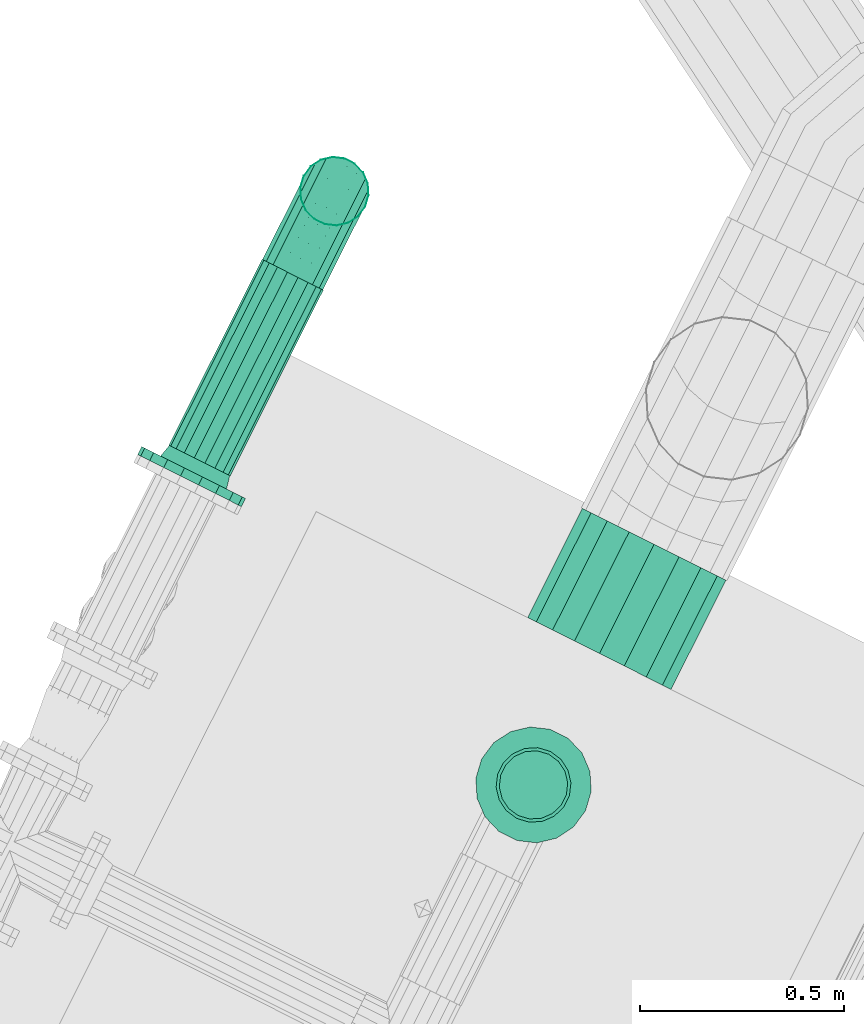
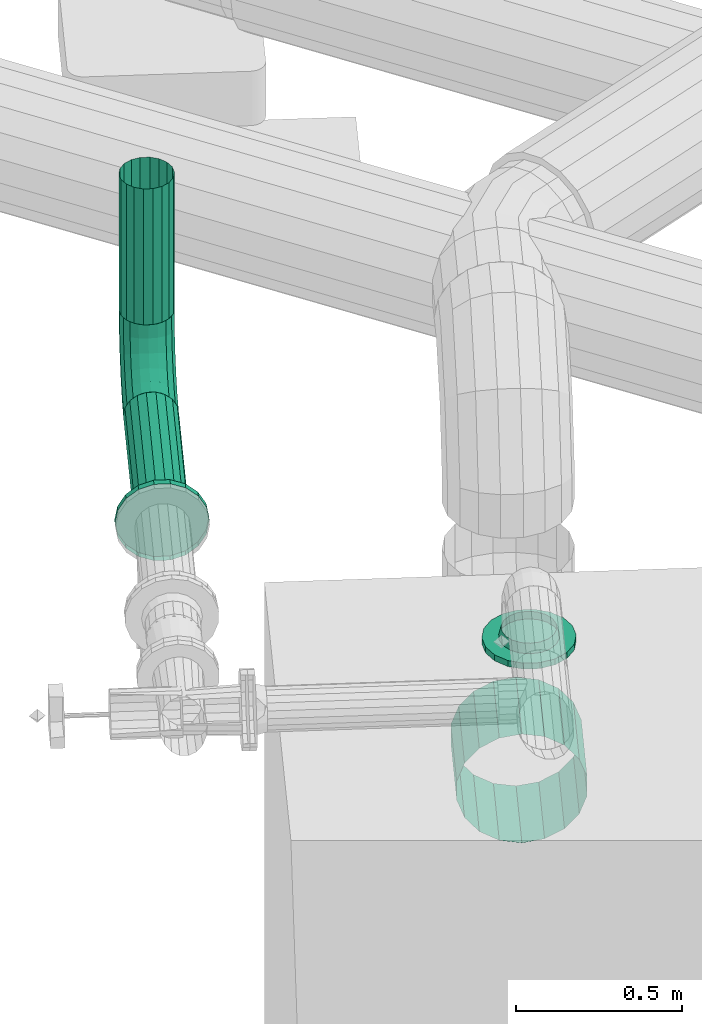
# One storey, part 121 of 206: 4 flow segments, 2 flow fittings.
"""IFC2X3 building model written with IfcOpenShell, lengths in metres."""

from ifc_helpers import new_model, si_unit, derived_unit, direction, frame, origin, place, context, subcontext, project, spatial, face_set, surface_model, source, transform, mapped, material, type_object, type_shapes, element, save


model = new_model("IFC2X3")

# Units and contexts
model_context = context("Model", 3, precision=5.2338327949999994e-05, world=origin(), true_north=direction((0.0, 1.0)))
body_context = subcontext(model_context, "Body", "Model", "MODEL_VIEW")
ifc_project = project(units=[si_unit("LENGTHUNIT", "METRE"), si_unit("AREAUNIT", "SQUARE_METRE"), si_unit("VOLUMEUNIT", "CUBIC_METRE"), si_unit("MASSUNIT", "GRAM", prefix="KILO"), si_unit("PLANEANGLEUNIT", "RADIAN"), derived_unit("THERMALTRANSMITTANCEUNIT", [(si_unit("MASSUNIT", "GRAM", prefix="KILO"), 1), (si_unit("THERMODYNAMICTEMPERATUREUNIT", "KELVIN"), -1), (si_unit("TIMEUNIT", "SECOND"), -3)])], contexts=[model_context])

# Site, building, storey
site_placement = place(None, frame((0.0, 0.0, 0.0), z_axis=(0.0, 0.0, 1.0), x_axis=(0.8939966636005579, -0.4480736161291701, 0.0)))
site = spatial("IfcSite", under=ifc_project, at=site_placement, Name="Default", CompositionType="ELEMENT")
building_placement = place(site_placement, origin())
building = spatial("IfcBuilding", under=site, at=building_placement, CompositionType="ELEMENT")
storey_placement = place(building_placement, origin())
storey = spatial("IfcBuildingStorey", under=building, at=storey_placement, Name="Erdgeschoss", CompositionType="ELEMENT", Elevation=0.0)

# Flow segment
ifc_material_1 = material(Name="IfcSurfaceStyle #251447")
distribution_element_type_1 = type_object("IfcDistributionElementType", Name="Wickelfalzrohr 278002:Wickelfalzrohr 278002", material=ifc_material_1)
shared_shape_1 = source(origin(), body_context, "Body", "SurfaceModel", [
    surface_model("IfcFaceBasedSurfaceModel", [(21.44094787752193, 7.728208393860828, 1.4800000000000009), (21.50935190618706, 7.728208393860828, 1.4679385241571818), (21.50935190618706, 8.028208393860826, 1.4679385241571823), (21.44094787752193, 8.028208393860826, 1.4800000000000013), (21.56950539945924, 7.728208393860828, 1.4332088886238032), (21.569505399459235, 8.028208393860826, 1.4332088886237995), (21.614152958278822, 7.728208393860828, 1.3800000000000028), (21.614152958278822, 8.028208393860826, 1.38), (21.637909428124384, 7.728208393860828, 1.3147296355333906), (21.637909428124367, 8.028208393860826, 1.3147296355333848), (21.63790942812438, 7.728208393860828, 1.2452703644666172), (21.63790942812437, 8.028208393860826, 1.2452703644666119), (21.614152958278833, 7.728208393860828, 1.1800000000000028), (21.61415295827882, 8.028208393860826, 1.1799999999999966), (21.569505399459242, 7.728208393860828, 1.1267911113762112), (21.569505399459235, 8.028208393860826, 1.1267911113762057), (21.50935190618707, 7.728208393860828, 1.092061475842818), (21.509351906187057, 8.028208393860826, 1.0920614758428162), (21.44094787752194, 7.728208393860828, 1.079999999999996), (21.440947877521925, 8.028208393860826, 1.08), (21.372543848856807, 7.728208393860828, 1.092061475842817), (21.372543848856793, 8.028208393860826, 1.0920614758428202), (21.312390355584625, 7.728208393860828, 1.126791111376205), (21.31239035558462, 8.028208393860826, 1.1267911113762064), (21.267742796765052, 7.728208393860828, 1.18), (21.267742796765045, 8.028208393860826, 1.1800000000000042), (21.24398632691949, 7.728208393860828, 1.2452703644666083), (21.24398632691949, 8.028208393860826, 1.245270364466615), (21.24398632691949, 7.728208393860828, 1.3147296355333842), (21.243986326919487, 8.028208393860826, 1.3147296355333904), (21.26774279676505, 7.728208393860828, 1.3799999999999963), (21.267742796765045, 8.028208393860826, 1.3800000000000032), (21.312390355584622, 7.728208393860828, 1.433208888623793), (21.31239035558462, 8.028208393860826, 1.4332088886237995), (21.372543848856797, 7.728208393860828, 1.4679385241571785), (21.372543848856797, 8.028208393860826, 1.4679385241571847)], [face_set([[[0, 1, 2, 3]], [[1, 4, 5, 2]], [[4, 6, 7, 5]], [[6, 8, 9, 7]], [[8, 10, 11, 9]], [[10, 12, 13, 11]], [[12, 14, 15, 13]], [[14, 16, 17, 15]], [[16, 18, 19, 17]], [[18, 20, 21, 19]], [[20, 22, 23, 21]], [[22, 24, 25, 23]], [[24, 26, 27, 25]], [[26, 28, 29, 27]], [[28, 30, 31, 29]], [[30, 32, 33, 31]], [[32, 34, 35, 33]], [[34, 0, 3, 35]]])]),
])
type_shapes(distribution_element_type_1, [shared_shape_1])
flow_segment_1_placement = place(storey_placement, origin())
element("IfcFlowSegment", 1, at=flow_segment_1_placement, inside=storey, type_object=distribution_element_type_1, material=ifc_material_1, Name="Wickelfalzrohr", ObjectType="Wickelfalzrohr", context=body_context, shape_type="MappedRepresentation", body=[
    mapped(shared_shape_1, transform((0.0, 0.0, 0.0), scale=1.0)),
])

# Flow fitting
ifc_material_2 = material(Name="IfcSurfaceStyle #9317")
distribution_element_type_2 = type_object("IfcDistributionElementType", material=ifc_material_2)
shared_shape_2 = source(origin(), body_context, "Body", "SurfaceModel", [
    surface_model("IfcFaceBasedSurfaceModel", [(21.298447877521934, 7.367307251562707, 2.07), (21.307041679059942, 7.3185693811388, 2.07), (21.307041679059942, 7.3185693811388, 2.0919999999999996), (21.298447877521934, 7.367307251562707, 2.0919999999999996), (21.331786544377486, 7.275710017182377, 2.07), (21.331786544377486, 7.275710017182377, 2.0919999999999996), (21.369697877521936, 7.243898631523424, 2.07), (21.369697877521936, 7.243898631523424, 2.0919999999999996), (21.416203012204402, 7.226972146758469, 2.07), (21.416203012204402, 7.226972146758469, 2.0919999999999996), (21.465692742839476, 7.226972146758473, 2.07), (21.465692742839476, 7.226972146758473, 2.0919999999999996), (21.51219787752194, 7.243898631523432, 2.07), (21.51219787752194, 7.243898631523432, 2.0919999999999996), (21.55010921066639, 7.275710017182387, 2.07), (21.55010921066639, 7.275710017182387, 2.0919999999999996), (21.57485407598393, 7.3185693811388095, 2.07), (21.57485407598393, 7.3185693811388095, 2.0919999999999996), (21.583447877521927, 7.36730725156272, 2.07), (21.583447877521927, 7.36730725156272, 2.0919999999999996), (21.57485407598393, 7.4160451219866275, 2.07), (21.57485407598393, 7.4160451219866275, 2.0919999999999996), (21.55010921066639, 7.458904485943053, 2.07), (21.55010921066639, 7.458904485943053, 2.0919999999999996), (21.51219787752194, 7.490715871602, 2.07), (21.51219787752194, 7.490715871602, 2.0919999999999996), (21.465692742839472, 7.507642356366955, 2.07), (21.465692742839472, 7.507642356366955, 2.0919999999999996), (21.4162030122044, 7.507642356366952, 2.07), (21.4162030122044, 7.507642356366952, 2.0919999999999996), (21.369697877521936, 7.490715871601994, 2.07), (21.369697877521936, 7.490715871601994, 2.0919999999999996), (21.331786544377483, 7.458904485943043, 2.07), (21.331786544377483, 7.458904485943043, 2.0919999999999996), (21.30704167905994, 7.416045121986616, 2.07), (21.30704167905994, 7.416045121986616, 2.0919999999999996), (21.440947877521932, 7.367307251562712, 2.091999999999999), (21.440947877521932, 7.275307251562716, 2.091999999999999), (21.472413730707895, 7.280855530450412, 2.091999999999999), (21.46972887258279, 7.288232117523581, 2.1249999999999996), (21.440947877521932, 7.283157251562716, 2.1249999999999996), (21.5000843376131, 7.29683116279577, 2.0919999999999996), (21.495038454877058, 7.302844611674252, 2.125), (21.5206222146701, 7.321307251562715, 2.0920000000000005), (21.5138239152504, 7.3252322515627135, 2.125000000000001), (21.531550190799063, 7.351331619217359, 2.0920000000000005), (21.523819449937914, 7.352694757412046, 2.125000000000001), (21.531550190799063, 7.383282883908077, 2.091999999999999), (21.523819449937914, 7.381919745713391, 2.1249999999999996), (21.5206222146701, 7.41330725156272, 2.0919999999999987), (21.513823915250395, 7.409382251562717, 2.124999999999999), (21.5000843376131, 7.437783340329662, 2.0920000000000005), (21.495038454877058, 7.431769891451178, 2.125000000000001), (21.472413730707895, 7.453758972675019, 2.0919999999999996), (21.46972887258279, 7.446382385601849, 2.125), (21.44094787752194, 7.459307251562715, 2.0919999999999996), (21.440947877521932, 7.451457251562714, 2.125), (21.409482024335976, 7.453758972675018, 2.0919999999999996), (21.41216688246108, 7.446382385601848, 2.125), (21.38181141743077, 7.437783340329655, 2.0919999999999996), (21.386857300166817, 7.4317698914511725, 2.125), (21.361273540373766, 7.41330725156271, 2.0919999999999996), (21.368071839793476, 7.409382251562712, 2.125), (21.350345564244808, 7.383282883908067, 2.0919999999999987), (21.358076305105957, 7.3819197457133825, 2.124999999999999), (21.350345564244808, 7.351331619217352, 2.091999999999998), (21.358076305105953, 7.3526947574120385, 2.1249999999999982), (21.361273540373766, 7.321307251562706, 2.0920000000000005), (21.368071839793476, 7.325232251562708, 2.125000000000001), (21.38181141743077, 7.2968311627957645, 2.0919999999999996), (21.386857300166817, 7.302844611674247, 2.125), (21.409482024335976, 7.28085553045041, 2.0919999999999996), (21.412166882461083, 7.2882321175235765, 2.125)], [face_set([[[0, 1, 2, 3]], [[1, 4, 5, 2]], [[4, 6, 7, 5]], [[6, 8, 9, 7]], [[8, 10, 11, 9]], [[10, 12, 13, 11]], [[12, 14, 15, 13]], [[14, 16, 17, 15]], [[16, 18, 19, 17]], [[18, 20, 21, 19]], [[20, 22, 23, 21]], [[22, 24, 25, 23]], [[24, 26, 27, 25]], [[26, 28, 29, 27]], [[28, 30, 31, 29]], [[30, 32, 33, 31]], [[32, 34, 35, 33]], [[34, 0, 3, 35]], [[36, 35, 3]], [[36, 33, 35]], [[36, 31, 33]], [[36, 29, 31]], [[36, 27, 29]], [[36, 25, 27]], [[36, 23, 25]], [[36, 21, 23]], [[36, 19, 21]], [[36, 17, 19]], [[36, 15, 17]], [[36, 13, 15]], [[36, 11, 13]], [[36, 9, 11]], [[36, 7, 9]], [[36, 5, 7]], [[36, 2, 5]], [[36, 3, 2]], [[37, 38, 39, 40]], [[38, 41, 42, 39]], [[41, 43, 44, 42]], [[43, 45, 46, 44]], [[45, 47, 48, 46]], [[47, 49, 50, 48]], [[49, 51, 52, 50]], [[51, 53, 54, 52]], [[53, 55, 56, 54]], [[55, 57, 58, 56]], [[57, 59, 60, 58]], [[59, 61, 62, 60]], [[61, 63, 64, 62]], [[63, 65, 66, 64]], [[65, 67, 68, 66]], [[67, 69, 70, 68]], [[69, 71, 72, 70]], [[71, 37, 40, 72]]])]),
])
type_shapes(distribution_element_type_2, [shared_shape_2])
flow_fitting_1_placement = place(storey_placement, origin())
element("IfcFlowFitting", 2, at=flow_fitting_1_placement, inside=storey, type_object=distribution_element_type_2, material=ifc_material_2, Name="Flansch", ObjectType="Flansch", context=body_context, shape_type="MappedRepresentation", body=[
    mapped(shared_shape_2, transform((0.0, 0.0, 0.0), scale=1.0)),
])

# Flow segments
ifc_material_3 = material(Name="IfcSurfaceStyle #1741")
distribution_element_type_3 = type_object("IfcDistributionElementType", Name="Rohrbogen 309482:Rohrbogen 309482", material=ifc_material_3)
shared_shape_3 = source(origin(), body_context, "Body", "SurfaceModel", [
    surface_model("IfcFaceBasedSurfaceModel", [(20.35098007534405, 8.222283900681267, 2.26985), (20.32219908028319, 8.222283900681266, 2.2749248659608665), (20.32219908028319, 8.317484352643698, 2.29000313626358), (20.35098007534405, 8.319052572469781, 2.285176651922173), (20.32219908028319, 8.403365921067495, 2.3337619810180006), (20.35098007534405, 8.406348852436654, 2.329656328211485), (20.32219908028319, 8.471521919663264, 2.401917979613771), (20.35098007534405, 8.475627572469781, 2.3989350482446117), (20.322199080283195, 8.515280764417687, 2.4877995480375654), (20.350980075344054, 8.520107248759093, 2.4862313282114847), (20.322199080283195, 8.530359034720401, 2.583), (20.350980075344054, 8.535433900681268, 2.582999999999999), (20.296889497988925, 8.222283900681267, 2.2895373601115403), (20.296889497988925, 8.312968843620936, 2.3039004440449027), (20.296889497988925, 8.394776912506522, 2.3455837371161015), (20.296889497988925, 8.459700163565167, 2.410506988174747), (20.29688949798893, 8.501383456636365, 2.4923150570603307), (20.29688949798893, 8.515746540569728, 2.583), (20.278104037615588, 8.222283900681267, 2.311924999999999), (20.278104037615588, 8.306050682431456, 2.325192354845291), (20.278104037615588, 8.38161778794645, 2.3636957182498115), (20.278104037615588, 8.441588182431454, 2.423666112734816), (20.278104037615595, 8.480091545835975, 2.4992332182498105), (20.278104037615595, 8.493358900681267, 2.5830000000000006), (20.268108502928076, 8.222283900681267, 2.3393875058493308), (20.268108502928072, 8.29756430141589, 2.3513107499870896), (20.268108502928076, 8.365475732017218, 2.385913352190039), (20.268108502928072, 8.419370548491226, 2.439808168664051), (20.268108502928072, 8.453973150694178, 2.507719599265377), (20.268108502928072, 8.465896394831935, 2.5830000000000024), (20.268108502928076, 8.222283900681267, 2.368612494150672), (20.268108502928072, 8.288533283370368, 2.37910536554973), (20.268108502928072, 8.348297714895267, 2.409556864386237), (20.268108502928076, 8.39572703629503, 2.456986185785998), (20.268108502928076, 8.426178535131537, 2.516750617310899), (20.26810850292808, 8.436671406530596, 2.583), (20.278104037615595, 8.222283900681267, 2.3960750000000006), (20.278104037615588, 8.280046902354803, 2.4052237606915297), (20.278104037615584, 8.332155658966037, 2.4317744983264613), (20.278104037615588, 8.3735094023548, 2.4731282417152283), (20.278104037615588, 8.400060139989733, 2.5252369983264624), (20.2781040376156, 8.409208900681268, 2.5829999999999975), (20.296889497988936, 8.222283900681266, 2.4184626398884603), (20.29688949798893, 8.273128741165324, 2.426515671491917), (20.29688949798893, 8.318996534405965, 2.4498864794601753), (20.296889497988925, 8.355397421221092, 2.4862873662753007), (20.29688949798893, 8.378768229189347, 2.5321551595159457), (20.296889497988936, 8.386821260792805, 2.583000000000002), (20.32219908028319, 8.222283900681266, 2.4330751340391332), (20.32219908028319, 8.26861323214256, 2.4404129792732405), (20.32219908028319, 8.31040752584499, 2.461708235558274), (20.322199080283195, 8.34357566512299, 2.494876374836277), (20.322199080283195, 8.364870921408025, 2.5366706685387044), (20.322199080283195, 8.372208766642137, 2.5829999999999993), (20.350980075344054, 8.222283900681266, 2.4381500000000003), (20.350980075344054, 8.267045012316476, 2.4452394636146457), (20.350980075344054, 8.307424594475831, 2.465813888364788), (20.350980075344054, 8.339470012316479, 2.497859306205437), (20.350980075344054, 8.36004443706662, 2.538238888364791), (20.350980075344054, 8.367133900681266, 2.583000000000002), (20.37976107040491, 8.222283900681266, 2.4330751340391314), (20.379761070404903, 8.26861323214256, 2.4404129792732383), (20.37976107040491, 8.31040752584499, 2.4617082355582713), (20.37976107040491, 8.343575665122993, 2.4948763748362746), (20.37976107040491, 8.364870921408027, 2.5366706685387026), (20.37976107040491, 8.372208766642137, 2.5829999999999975), (20.40507065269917, 8.222283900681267, 2.4184626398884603), (20.40507065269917, 8.273128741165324, 2.426515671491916), (20.405070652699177, 8.318996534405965, 2.4498864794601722), (20.405070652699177, 8.355397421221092, 2.4862873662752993), (20.405070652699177, 8.37876822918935, 2.532155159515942), (20.405070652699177, 8.386821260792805, 2.5829999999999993), (20.42385611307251, 8.222283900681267, 2.3960749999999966), (20.42385611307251, 8.280046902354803, 2.4052237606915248), (20.423856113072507, 8.332155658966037, 2.431774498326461), (20.42385611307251, 8.373509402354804, 2.4731282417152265), (20.42385611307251, 8.400060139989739, 2.52523699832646), (20.42385611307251, 8.409208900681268, 2.5829999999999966), (20.43385164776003, 8.222283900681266, 2.36861249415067), (20.43385164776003, 8.288533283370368, 2.3791053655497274), (20.43385164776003, 8.348297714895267, 2.409556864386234), (20.43385164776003, 8.39572703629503, 2.4569861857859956), (20.43385164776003, 8.426178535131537, 2.5167506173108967), (20.43385164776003, 8.436671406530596, 2.582999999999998), (20.43385164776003, 8.222283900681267, 2.3393875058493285), (20.433851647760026, 8.29756430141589, 2.351310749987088), (20.43385164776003, 8.365475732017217, 2.3859133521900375), (20.43385164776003, 8.419370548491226, 2.43980816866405), (20.43385164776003, 8.453973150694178, 2.507719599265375), (20.43385164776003, 8.465896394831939, 2.583), (20.423856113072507, 8.222283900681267, 2.311924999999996), (20.42385611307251, 8.306050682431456, 2.3251923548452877), (20.423856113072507, 8.38161778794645, 2.3636957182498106), (20.423856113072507, 8.441588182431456, 2.4236661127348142), (20.42385611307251, 8.480091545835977, 2.499233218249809), (20.423856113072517, 8.493358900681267, 2.583), (20.40507065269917, 8.222283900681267, 2.2895373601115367), (20.40507065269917, 8.312968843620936, 2.3039004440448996), (20.40507065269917, 8.394776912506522, 2.3455837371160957), (20.40507065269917, 8.459700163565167, 2.410506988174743), (20.40507065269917, 8.501383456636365, 2.4923150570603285), (20.40507065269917, 8.515746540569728, 2.5829999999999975), (20.3797610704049, 8.222283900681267, 2.274924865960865), (20.3797610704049, 8.3174843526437, 2.2900031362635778), (20.379761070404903, 8.403365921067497, 2.3337619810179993), (20.379761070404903, 8.471521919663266, 2.401917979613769), (20.37976107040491, 8.515280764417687, 2.4877995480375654), (20.37976107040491, 8.530359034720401, 2.582999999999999)], [face_set([[[0, 1, 2, 3]], [[3, 2, 4, 5]], [[5, 4, 6, 7]], [[7, 6, 8, 9]], [[9, 8, 10, 11]], [[1, 12, 13, 2]], [[2, 13, 14, 4]], [[4, 14, 15, 6]], [[6, 15, 16, 8]], [[8, 16, 17, 10]], [[12, 18, 19, 13]], [[13, 19, 20, 14]], [[14, 20, 21, 15]], [[15, 21, 22, 16]], [[16, 22, 23, 17]], [[18, 24, 25, 19]], [[19, 25, 26, 20]], [[20, 26, 27, 21]], [[21, 27, 28, 22]], [[22, 28, 29, 23]], [[24, 30, 31, 25]], [[25, 31, 32, 26]], [[26, 32, 33, 27]], [[27, 33, 34, 28]], [[28, 34, 35, 29]], [[30, 36, 37, 31]], [[31, 37, 38, 32]], [[32, 38, 39, 33]], [[33, 39, 40, 34]], [[34, 40, 41, 35]], [[36, 42, 43, 37]], [[37, 43, 44, 38]], [[38, 44, 45, 39]], [[39, 45, 46, 40]], [[40, 46, 47, 41]], [[42, 48, 49, 43]], [[43, 49, 50, 44]], [[44, 50, 51, 45]], [[45, 51, 52, 46]], [[46, 52, 53, 47]], [[48, 54, 55, 49]], [[49, 55, 56, 50]], [[50, 56, 57, 51]], [[51, 57, 58, 52]], [[52, 58, 59, 53]], [[54, 60, 61, 55]], [[55, 61, 62, 56]], [[56, 62, 63, 57]], [[57, 63, 64, 58]], [[58, 64, 65, 59]], [[60, 66, 67, 61]], [[61, 67, 68, 62]], [[62, 68, 69, 63]], [[63, 69, 70, 64]], [[64, 70, 71, 65]], [[66, 72, 73, 67]], [[67, 73, 74, 68]], [[68, 74, 75, 69]], [[69, 75, 76, 70]], [[70, 76, 77, 71]], [[72, 78, 79, 73]], [[73, 79, 80, 74]], [[74, 80, 81, 75]], [[75, 81, 82, 76]], [[76, 82, 83, 77]], [[78, 84, 85, 79]], [[79, 85, 86, 80]], [[80, 86, 87, 81]], [[81, 87, 88, 82]], [[82, 88, 89, 83]], [[84, 90, 91, 85]], [[85, 91, 92, 86]], [[86, 92, 93, 87]], [[87, 93, 94, 88]], [[88, 94, 95, 89]], [[90, 96, 97, 91]], [[91, 97, 98, 92]], [[92, 98, 99, 93]], [[93, 99, 100, 94]], [[94, 100, 101, 95]], [[96, 102, 103, 97]], [[97, 103, 104, 98]], [[98, 104, 105, 99]], [[99, 105, 106, 100]], [[100, 106, 107, 101]], [[102, 0, 3, 103]], [[103, 3, 5, 104]], [[104, 5, 7, 105]], [[105, 7, 9, 106]], [[106, 9, 11, 107]]])]),
])
type_shapes(distribution_element_type_3, [shared_shape_3])
flow_segment_2_placement = place(storey_placement, origin())
element("IfcFlowSegment", 3, at=flow_segment_2_placement, inside=storey, type_object=distribution_element_type_3, material=ifc_material_3, Name="Rohrbogen", ObjectType="Rohrbogen", context=body_context, shape_type="MappedRepresentation", body=[
    mapped(shared_shape_3, transform((0.0, 0.0, 0.0), scale=1.0)),
])
distribution_element_type_4 = type_object("IfcDistributionElementType", Name="Stahlrohr nach DIN 2448 309511:Stahlrohr nach DIN 2448 309511", material=ifc_material_3)
shared_shape_4 = source(origin(), body_context, "Body", "SurfaceModel", [
    surface_model("IfcFaceBasedSurfaceModel", [(20.435130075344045, 8.451283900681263, 2.583), (20.430055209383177, 8.48006489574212, 2.583), (20.430055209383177, 8.480064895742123, 3.0829999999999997), (20.435130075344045, 8.451283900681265, 3.0829999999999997), (20.415442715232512, 8.505374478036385, 2.583), (20.415442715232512, 8.505374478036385, 3.0829999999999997), (20.393055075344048, 8.524159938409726, 2.583), (20.39305507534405, 8.524159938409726, 3.0829999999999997), (20.365592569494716, 8.534155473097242, 2.583), (20.365592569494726, 8.534155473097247, 3.0829999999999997), (20.336367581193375, 8.534155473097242, 2.583), (20.33636758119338, 8.534155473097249, 3.0829999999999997), (20.30890507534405, 8.524159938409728, 2.583), (20.30890507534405, 8.524159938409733, 3.0829999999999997), (20.28651743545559, 8.505374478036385, 2.583), (20.286517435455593, 8.505374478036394, 3.0829999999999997), (20.271904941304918, 8.480064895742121, 2.583), (20.271904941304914, 8.480064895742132, 3.0829999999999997), (20.266830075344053, 8.451283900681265, 2.5830000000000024), (20.266830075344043, 8.451283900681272, 3.0829999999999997), (20.271904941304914, 8.42250290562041, 2.583), (20.271904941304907, 8.422502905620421, 3.0829999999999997), (20.28651743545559, 8.397193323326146, 2.583), (20.286517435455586, 8.397193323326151, 3.0829999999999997), (20.30890507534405, 8.378407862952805, 2.583), (20.30890507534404, 8.378407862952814, 3.0829999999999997), (20.336367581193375, 8.36841232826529, 2.583), (20.33636758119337, 8.368412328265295, 3.0829999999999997), (20.365592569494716, 8.36841232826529, 2.583), (20.365592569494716, 8.368412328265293, 3.0829999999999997), (20.393055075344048, 8.378407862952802, 2.583), (20.393055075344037, 8.378407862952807, 3.0829999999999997), (20.415442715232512, 8.397193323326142, 2.583), (20.4154427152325, 8.397193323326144, 3.0829999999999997), (20.43005520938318, 8.422502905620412, 2.583), (20.430055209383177, 8.42250290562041, 3.0829999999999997)], [face_set([[[0, 1, 2, 3]], [[1, 4, 5, 2]], [[4, 6, 7, 5]], [[6, 8, 9, 7]], [[8, 10, 11, 9]], [[10, 12, 13, 11]], [[12, 14, 15, 13]], [[14, 16, 17, 15]], [[16, 18, 19, 17]], [[18, 20, 21, 19]], [[20, 22, 23, 21]], [[22, 24, 25, 23]], [[24, 26, 27, 25]], [[26, 28, 29, 27]], [[28, 30, 31, 29]], [[30, 32, 33, 31]], [[32, 34, 35, 33]], [[34, 0, 3, 35]]])]),
])
type_shapes(distribution_element_type_4, [shared_shape_4])
flow_segment_3_placement = place(storey_placement, origin())
element("IfcFlowSegment", 4, at=flow_segment_3_placement, inside=storey, type_object=distribution_element_type_4, material=ifc_material_3, Name="Stahlrohr nach DIN 2448", ObjectType="Stahlrohr nach DIN 2448", context=body_context, shape_type="MappedRepresentation", body=[
    mapped(shared_shape_4, transform((0.0, 0.0, 0.0), scale=1.0)),
])

# Flow fitting
distribution_element_type_5 = type_object("IfcDistributionElementType", Name="Flansch 314957:Flansch 314957", material=ifc_material_3)
shared_shape_5 = source(origin(), body_context, "Body", "SurfaceModel", [
    surface_model("IfcFaceBasedSurfaceModel", [(20.208480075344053, 7.656892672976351, 2.354), (20.21707387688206, 7.656892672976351, 2.4027378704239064), (20.21707387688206, 7.678892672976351, 2.4027378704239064), (20.208480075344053, 7.678892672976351, 2.354), (20.241818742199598, 7.656892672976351, 2.445597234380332), (20.241818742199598, 7.678892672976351, 2.445597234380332), (20.279730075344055, 7.656892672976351, 2.4774086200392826), (20.279730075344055, 7.678892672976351, 2.4774086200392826), (20.326235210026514, 7.656892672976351, 2.49433510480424), (20.326235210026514, 7.678892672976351, 2.49433510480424), (20.375724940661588, 7.656892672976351, 2.4943351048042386), (20.375724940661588, 7.678892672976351, 2.4943351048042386), (20.42223007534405, 7.656892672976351, 2.4774086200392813), (20.42223007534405, 7.678892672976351, 2.4774086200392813), (20.460141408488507, 7.656892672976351, 2.445597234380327), (20.460141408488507, 7.678892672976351, 2.445597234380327), (20.484886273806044, 7.656892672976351, 2.402737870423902), (20.484886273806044, 7.678892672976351, 2.402737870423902), (20.493480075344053, 7.656892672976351, 2.353999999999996), (20.493480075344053, 7.678892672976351, 2.353999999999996), (20.484886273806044, 7.656892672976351, 2.30526212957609), (20.484886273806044, 7.678892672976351, 2.30526212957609), (20.4601414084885, 7.656892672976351, 2.262402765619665), (20.4601414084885, 7.678892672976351, 2.262402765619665), (20.42223007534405, 7.656892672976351, 2.230591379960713), (20.42223007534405, 7.678892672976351, 2.230591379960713), (20.375724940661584, 7.656892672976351, 2.213664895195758), (20.375724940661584, 7.678892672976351, 2.213664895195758), (20.32623521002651, 7.656892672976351, 2.213664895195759), (20.32623521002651, 7.678892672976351, 2.213664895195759), (20.279730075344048, 7.656892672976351, 2.230591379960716), (20.279730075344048, 7.678892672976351, 2.230591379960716), (20.241818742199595, 7.656892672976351, 2.262402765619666), (20.241818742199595, 7.678892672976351, 2.262402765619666), (20.217073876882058, 7.656892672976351, 2.305262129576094), (20.217073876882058, 7.678892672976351, 2.305262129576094), (20.350980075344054, 7.6788926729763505, 2.3539999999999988), (20.35098007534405, 7.678892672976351, 2.4459999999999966), (20.382445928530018, 7.678892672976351, 2.440451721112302), (20.37976107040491, 7.711892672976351, 2.433075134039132), (20.350980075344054, 7.711892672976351, 2.438149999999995), (20.410116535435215, 7.678892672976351, 2.424476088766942), (20.405070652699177, 7.711892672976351, 2.4184626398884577), (20.43065441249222, 7.678892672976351, 2.399999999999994), (20.423856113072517, 7.711892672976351, 2.3960749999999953), (20.44158238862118, 7.678892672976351, 2.369975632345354), (20.43385164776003, 7.711892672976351, 2.368612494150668), (20.44158238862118, 7.678892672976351, 2.338024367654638), (20.43385164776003, 7.711892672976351, 2.3393875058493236), (20.43065441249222, 7.678892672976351, 2.307999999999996), (20.42385611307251, 7.711892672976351, 2.3119249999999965), (20.410116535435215, 7.678892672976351, 2.2835239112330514), (20.40507065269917, 7.711892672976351, 2.289537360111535), (20.382445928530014, 7.678892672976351, 2.267548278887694), (20.37976107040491, 7.711892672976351, 2.2749248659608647), (20.35098007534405, 7.678892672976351, 2.2619999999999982), (20.35098007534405, 7.711892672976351, 2.2698499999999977), (20.319514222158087, 7.678892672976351, 2.267548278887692), (20.32219908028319, 7.711892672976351, 2.274924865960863), (20.29184361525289, 7.678892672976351, 2.283523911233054), (20.29688949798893, 7.711892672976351, 2.2895373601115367), (20.271305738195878, 7.678892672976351, 2.3079999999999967), (20.278104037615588, 7.711892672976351, 2.3119249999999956), (20.26037776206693, 7.678892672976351, 2.3380243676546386), (20.268108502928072, 7.711892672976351, 2.3393875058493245), (20.26037776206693, 7.678892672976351, 2.3699756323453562), (20.268108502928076, 7.711892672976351, 2.3686124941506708), (20.271305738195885, 7.678892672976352, 2.400000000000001), (20.278104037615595, 7.711892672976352, 2.396075), (20.29184361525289, 7.678892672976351, 2.424476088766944), (20.29688949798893, 7.711892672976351, 2.418462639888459), (20.319514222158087, 7.678892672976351, 2.440451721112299), (20.322199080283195, 7.711892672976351, 2.433075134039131)], [face_set([[[0, 1, 2, 3]], [[1, 4, 5, 2]], [[4, 6, 7, 5]], [[6, 8, 9, 7]], [[8, 10, 11, 9]], [[10, 12, 13, 11]], [[12, 14, 15, 13]], [[14, 16, 17, 15]], [[16, 18, 19, 17]], [[18, 20, 21, 19]], [[20, 22, 23, 21]], [[22, 24, 25, 23]], [[24, 26, 27, 25]], [[26, 28, 29, 27]], [[28, 30, 31, 29]], [[30, 32, 33, 31]], [[32, 34, 35, 33]], [[34, 0, 3, 35]], [[36, 35, 3]], [[36, 33, 35]], [[36, 31, 33]], [[36, 29, 31]], [[36, 27, 29]], [[36, 25, 27]], [[36, 23, 25]], [[36, 21, 23]], [[36, 19, 21]], [[36, 17, 19]], [[36, 15, 17]], [[36, 13, 15]], [[36, 11, 13]], [[36, 9, 11]], [[36, 7, 9]], [[36, 5, 7]], [[36, 2, 5]], [[36, 3, 2]], [[37, 38, 39, 40]], [[38, 41, 42, 39]], [[41, 43, 44, 42]], [[43, 45, 46, 44]], [[45, 47, 48, 46]], [[47, 49, 50, 48]], [[49, 51, 52, 50]], [[51, 53, 54, 52]], [[53, 55, 56, 54]], [[55, 57, 58, 56]], [[57, 59, 60, 58]], [[59, 61, 62, 60]], [[61, 63, 64, 62]], [[63, 65, 66, 64]], [[65, 67, 68, 66]], [[67, 69, 70, 68]], [[69, 71, 72, 70]], [[71, 37, 40, 72]]])]),
])
type_shapes(distribution_element_type_5, [shared_shape_5])
flow_fitting_2_placement = place(storey_placement, origin())
element("IfcFlowFitting", 5, at=flow_fitting_2_placement, inside=storey, type_object=distribution_element_type_5, material=ifc_material_3, Name="Flansch", ObjectType="Flansch", context=body_context, shape_type="MappedRepresentation", body=[
    mapped(shared_shape_5, transform((0.0, 0.0, 0.0), scale=1.0)),
])

# Flow segment
distribution_element_type_6 = type_object("IfcDistributionElementType", Name="Stahlrohr nach DIN 2448 314980:Stahlrohr nach DIN 2448 314980", material=ifc_material_3)
shared_shape_6 = source(origin(), body_context, "Body", "SurfaceModel", [
    surface_model("IfcFaceBasedSurfaceModel", [(20.266830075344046, 7.711892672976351, 2.353999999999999), (20.271904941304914, 7.711892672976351, 2.382780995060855), (20.271904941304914, 8.222283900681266, 2.3827809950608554), (20.266830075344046, 8.222283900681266, 2.3540000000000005), (20.286517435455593, 7.711892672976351, 2.4080905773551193), (20.286517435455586, 8.222283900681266, 2.408090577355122), (20.308905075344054, 7.711892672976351, 2.426876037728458), (20.30890507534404, 8.222283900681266, 2.426876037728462), (20.33636758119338, 7.711892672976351, 2.4368715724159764), (20.336367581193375, 8.222283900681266, 2.4368715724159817), (20.36559256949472, 7.711892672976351, 2.436871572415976), (20.365592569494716, 8.222283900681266, 2.436871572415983), (20.39305507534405, 7.711892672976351, 2.4268760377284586), (20.393055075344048, 8.222283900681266, 2.426876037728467), (20.415442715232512, 7.711892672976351, 2.408090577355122), (20.4154427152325, 8.222283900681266, 2.4080905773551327), (20.43005520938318, 7.711892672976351, 2.382780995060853), (20.430055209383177, 8.222283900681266, 2.382780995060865), (20.435130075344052, 7.711892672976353, 2.3539999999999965), (20.43513007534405, 8.222283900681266, 2.3540000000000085), (20.43005520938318, 7.711892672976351, 2.325219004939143), (20.430055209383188, 8.222283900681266, 2.3252190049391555), (20.415442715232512, 7.711892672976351, 2.299909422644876), (20.415442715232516, 8.222283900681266, 2.2999094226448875), (20.393055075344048, 7.711892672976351, 2.2811239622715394), (20.39305507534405, 8.222283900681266, 2.281123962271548), (20.365592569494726, 7.711892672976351, 2.271128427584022), (20.36559256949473, 8.222283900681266, 2.2711284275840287), (20.336367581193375, 7.711892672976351, 2.2711284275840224), (20.336367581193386, 8.222283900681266, 2.271128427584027), (20.30890507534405, 7.711892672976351, 2.2811239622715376), (20.308905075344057, 8.222283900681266, 2.2811239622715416), (20.28651743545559, 7.711892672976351, 2.2999094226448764), (20.286517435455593, 8.222283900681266, 2.2999094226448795), (20.271904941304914, 7.711892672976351, 2.3252190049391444), (20.271904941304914, 8.222283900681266, 2.3252190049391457)], [face_set([[[0, 1, 2, 3]], [[1, 4, 5, 2]], [[4, 6, 7, 5]], [[6, 8, 9, 7]], [[8, 10, 11, 9]], [[10, 12, 13, 11]], [[12, 14, 15, 13]], [[14, 16, 17, 15]], [[16, 18, 19, 17]], [[18, 20, 21, 19]], [[20, 22, 23, 21]], [[22, 24, 25, 23]], [[24, 26, 27, 25]], [[26, 28, 29, 27]], [[28, 30, 31, 29]], [[30, 32, 33, 31]], [[32, 34, 35, 33]], [[34, 0, 3, 35]]])]),
])
type_shapes(distribution_element_type_6, [shared_shape_6])
flow_segment_4_placement = place(storey_placement, origin())
element("IfcFlowSegment", 6, at=flow_segment_4_placement, inside=storey, type_object=distribution_element_type_6, material=ifc_material_3, Name="Stahlrohr nach DIN 2448", ObjectType="Stahlrohr nach DIN 2448", context=body_context, shape_type="MappedRepresentation", body=[
    mapped(shared_shape_6, transform((0.0, 0.0, 0.0), scale=1.0)),
])

save(model, "model.ifc")
